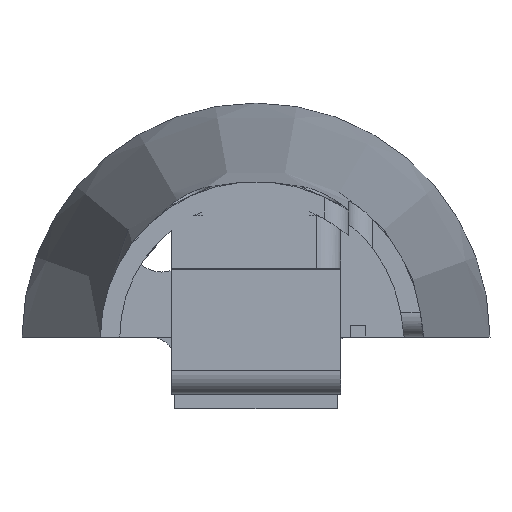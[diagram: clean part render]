
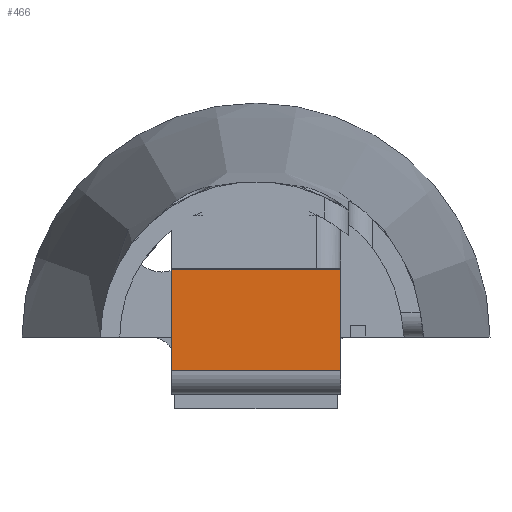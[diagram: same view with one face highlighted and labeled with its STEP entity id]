
A CAD part, front view. The second image highlights one B-rep face of the part: STEP entity #466.
In plain terms, the highlighted planar face has unit normal (0, -1, 0).
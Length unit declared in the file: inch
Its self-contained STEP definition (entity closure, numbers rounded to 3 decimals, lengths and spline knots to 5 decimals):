
#132=CARTESIAN_POINT('',(0.43831,2.205,0.351));
#133=VERTEX_POINT('',#132);
#140=CARTESIAN_POINT('',(0.43831,2.205,-0.174));
#141=VERTEX_POINT('',#140);
#142=CARTESIAN_POINT('',(0.43831,2.205,0.351));
#143=DIRECTION('',(0.0,0.0,-1.0));
#144=VECTOR('',#143,0.525);
#145=LINE('',#142,#144);
#146=EDGE_CURVE('',#133,#141,#145,.T.);
#290=CARTESIAN_POINT('',(-0.43669,2.205,0.351));
#291=VERTEX_POINT('',#290);
#298=CARTESIAN_POINT('',(-0.43669,2.205,0.351));
#299=DIRECTION('',(1.0,0.0,0.0));
#300=VECTOR('',#299,0.875);
#301=LINE('',#298,#300);
#302=EDGE_CURVE('',#291,#133,#301,.T.);
#354=CARTESIAN_POINT('',(-0.43669,2.205,-0.174));
#355=VERTEX_POINT('',#354);
#372=CARTESIAN_POINT('',(0.43831,2.205,-0.174));
#373=DIRECTION('',(-1.0,0.0,0.0));
#374=VECTOR('',#373,0.875);
#375=LINE('',#372,#374);
#376=EDGE_CURVE('',#141,#355,#375,.T.);
#442=CARTESIAN_POINT('',(-0.43669,2.205,-0.174));
#443=DIRECTION('',(0.0,0.0,1.0));
#444=VECTOR('',#443,0.525);
#445=LINE('',#442,#444);
#446=EDGE_CURVE('',#355,#291,#445,.T.);
#455=CARTESIAN_POINT('',(0.43831,2.205,-0.299));
#456=DIRECTION('',(0.0,1.0,0.0));
#457=DIRECTION('',(0.0,0.0,-1.0));
#458=AXIS2_PLACEMENT_3D('',#455,#456,#457);
#459=PLANE('',#458);
#460=ORIENTED_EDGE('',*,*,#302,.F.);
#461=ORIENTED_EDGE('',*,*,#446,.F.);
#462=ORIENTED_EDGE('',*,*,#376,.F.);
#463=ORIENTED_EDGE('',*,*,#146,.F.);
#464=EDGE_LOOP('',(#460,#461,#462,#463));
#465=FACE_OUTER_BOUND('',#464,.T.);
#466=ADVANCED_FACE('',(#465),#459,.F.);
